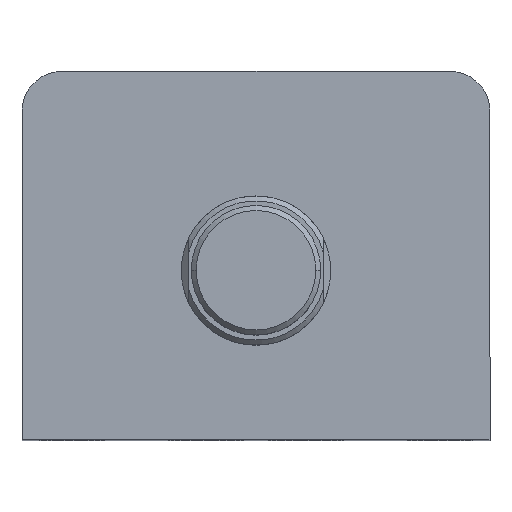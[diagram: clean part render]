
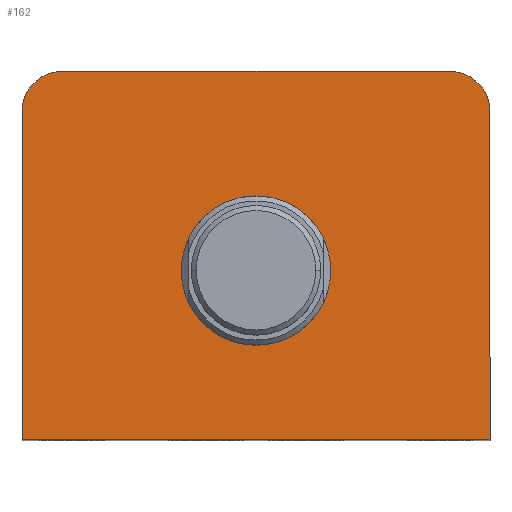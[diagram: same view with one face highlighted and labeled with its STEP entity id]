
A CAD part, top view. The second image highlights one B-rep face of the part: STEP entity #162.
In plain terms, the highlighted planar face has unit normal (0, 0, 1).
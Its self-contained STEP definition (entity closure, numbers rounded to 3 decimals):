
#73 = PLANE ( 'NONE',  #656 ) ;
#99 = CARTESIAN_POINT ( 'NONE',  ( 0., 0., 70. ) ) ;
#130 = DIRECTION ( 'NONE',  ( 1., 0., 0. ) ) ;
#132 = DIRECTION ( 'NONE',  ( 0., 0., 1. ) ) ;
#162 = ADVANCED_FACE ( 'NONE', ( #1964, #1956 ), #73, .T. ) ;
#430 = EDGE_CURVE ( 'NONE', #1746, #2448, #1837, .T. ) ;
#443 = EDGE_CURVE ( 'NONE', #2468, #1746, #1819, .T. ) ;
#455 = EDGE_CURVE ( 'NONE', #2448, #1755, #1796, .T. ) ;
#487 = EDGE_CURVE ( 'NONE', #2473, #2461, #811, .T. ) ;
#511 = EDGE_LOOP ( 'NONE', ( #1631, #1632, #1633, #1634, #1637, #1638 ) ) ;
#656 = AXIS2_PLACEMENT_3D ( 'NONE', #99, #132, #130 ) ;
#694 = LINE ( 'NONE', #1175, #698 ) ;
#698 = VECTOR ( 'NONE', #1187, 1000. ) ;
#710 = VECTOR ( 'NONE', #1508, 1000. ) ;
#731 = LINE ( 'NONE', #1521, #710 ) ;
#732 = CIRCLE ( 'NONE', #1390, 15. ) ;
#780 = CIRCLE ( 'NONE', #1373, 8. ) ;
#811 = CIRCLE ( 'NONE', #1361, 15. ) ;
#1125 = EDGE_CURVE ( 'NONE', #1755, #2506, #780, .T. ) ;
#1175 = CARTESIAN_POINT ( 'NONE',  ( -47., 37., 70. ) ) ;
#1187 = DIRECTION ( 'NONE',  ( 0., -1., 0. ) ) ;
#1189 = CARTESIAN_POINT ( 'NONE',  ( -39., 37., 70. ) ) ;
#1202 = CARTESIAN_POINT ( 'NONE',  ( 47., 29., 70. ) ) ;
#1211 = DIRECTION ( 'NONE',  ( 1., 0., 0. ) ) ;
#1215 = CARTESIAN_POINT ( 'NONE',  ( -39., 29., 70. ) ) ;
#1216 = DIRECTION ( 'NONE',  ( 0., 0., 1. ) ) ;
#1341 = AXIS2_PLACEMENT_3D ( 'NONE', #2025, #2024, #2023 ) ;
#1361 = AXIS2_PLACEMENT_3D ( 'NONE', #2317, #2316, #2315 ) ;
#1373 = AXIS2_PLACEMENT_3D ( 'NONE', #1215, #1216, #1211 ) ;
#1390 = AXIS2_PLACEMENT_3D ( 'NONE', #1496, #1510, #1493 ) ;
#1457 = CARTESIAN_POINT ( 'NONE',  ( -47., 29., 70. ) ) ;
#1473 = CARTESIAN_POINT ( 'NONE',  ( -47., -37., 70. ) ) ;
#1493 = DIRECTION ( 'NONE',  ( 1., 0., 0. ) ) ;
#1496 = CARTESIAN_POINT ( 'NONE',  ( 0., -3., 70. ) ) ;
#1503 = CARTESIAN_POINT ( 'NONE',  ( -15., -3., 70. ) ) ;
#1508 = DIRECTION ( 'NONE',  ( 1., 0., 0. ) ) ;
#1510 = DIRECTION ( 'NONE',  ( 0., 0., 1. ) ) ;
#1511 = CARTESIAN_POINT ( 'NONE',  ( 47., -37., 70. ) ) ;
#1521 = CARTESIAN_POINT ( 'NONE',  ( -47., -37., 70. ) ) ;
#1523 = CARTESIAN_POINT ( 'NONE',  ( 15., -3., 70. ) ) ;
#1539 = CARTESIAN_POINT ( 'NONE',  ( 39., 37., 70. ) ) ;
#1627 = ORIENTED_EDGE ( 'NONE', *, *, #2285, .F. ) ;
#1630 = ORIENTED_EDGE ( 'NONE', *, *, #487, .F. ) ;
#1631 = ORIENTED_EDGE ( 'NONE', *, *, #455, .T. ) ;
#1632 = ORIENTED_EDGE ( 'NONE', *, *, #1125, .T. ) ;
#1633 = ORIENTED_EDGE ( 'NONE', *, *, #2277, .T. ) ;
#1634 = ORIENTED_EDGE ( 'NONE', *, *, #2286, .T. ) ;
#1637 = ORIENTED_EDGE ( 'NONE', *, *, #443, .T. ) ;
#1638 = ORIENTED_EDGE ( 'NONE', *, *, #430, .T. ) ;
#1746 = VERTEX_POINT ( 'NONE', #1202 ) ;
#1755 = VERTEX_POINT ( 'NONE', #1189 ) ;
#1793 = VECTOR ( 'NONE', #2380, 1000. ) ;
#1796 = LINE ( 'NONE', #2378, #1793 ) ;
#1816 = VECTOR ( 'NONE', #2356, 1000. ) ;
#1819 = LINE ( 'NONE', #2355, #1816 ) ;
#1837 = CIRCLE ( 'NONE', #1341, 8. ) ;
#1956 = FACE_OUTER_BOUND ( 'NONE', #511, .T. ) ;
#1964 = FACE_BOUND ( 'NONE', #2602, .T. ) ;
#2023 = DIRECTION ( 'NONE',  ( 1., 0., 0. ) ) ;
#2024 = DIRECTION ( 'NONE',  ( 0., 0., 1. ) ) ;
#2025 = CARTESIAN_POINT ( 'NONE',  ( 39., 29., 70. ) ) ;
#2277 = EDGE_CURVE ( 'NONE', #2506, #2496, #694, .T. ) ;
#2285 = EDGE_CURVE ( 'NONE', #2461, #2473, #732, .T. ) ;
#2286 = EDGE_CURVE ( 'NONE', #2496, #2468, #731, .T. ) ;
#2315 = DIRECTION ( 'NONE',  ( 1., 0., 0. ) ) ;
#2316 = DIRECTION ( 'NONE',  ( 0., 0., 1. ) ) ;
#2317 = CARTESIAN_POINT ( 'NONE',  ( 0., -3., 70. ) ) ;
#2355 = CARTESIAN_POINT ( 'NONE',  ( 47., 37., 70. ) ) ;
#2356 = DIRECTION ( 'NONE',  ( 0., 1., 0. ) ) ;
#2378 = CARTESIAN_POINT ( 'NONE',  ( -47., 37., 70. ) ) ;
#2380 = DIRECTION ( 'NONE',  ( -1., 0., 0. ) ) ;
#2448 = VERTEX_POINT ( 'NONE', #1539 ) ;
#2461 = VERTEX_POINT ( 'NONE', #1523 ) ;
#2468 = VERTEX_POINT ( 'NONE', #1511 ) ;
#2473 = VERTEX_POINT ( 'NONE', #1503 ) ;
#2496 = VERTEX_POINT ( 'NONE', #1473 ) ;
#2506 = VERTEX_POINT ( 'NONE', #1457 ) ;
#2602 = EDGE_LOOP ( 'NONE', ( #1627, #1630 ) ) ;
